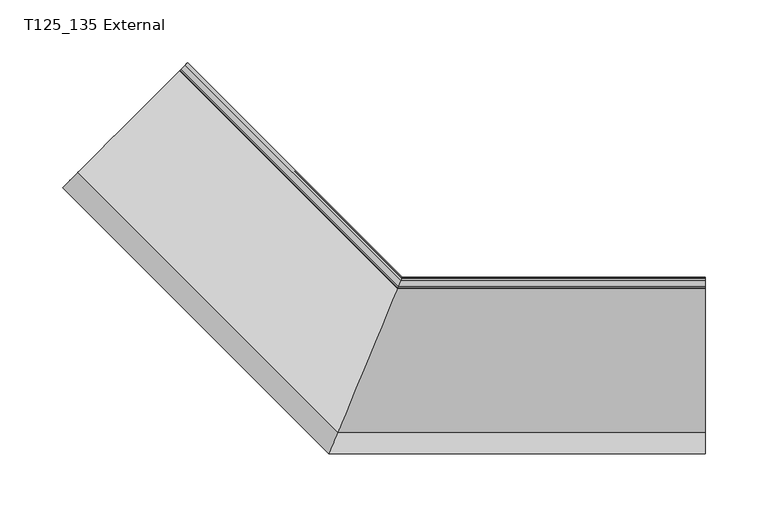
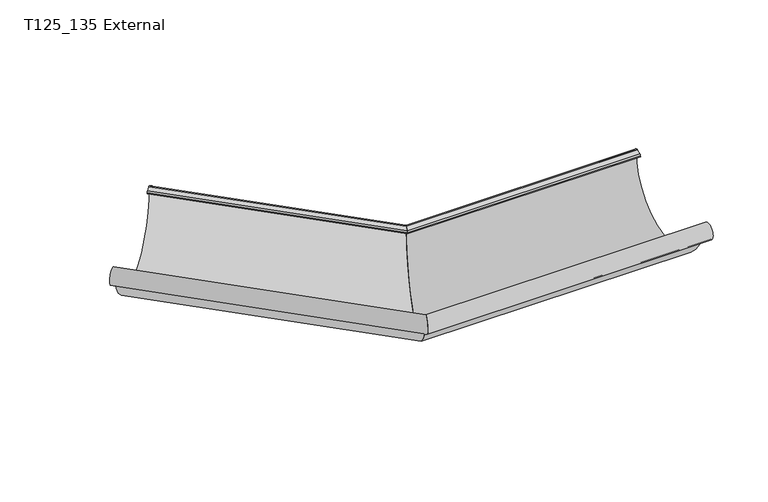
"""IFC4 building model written with IfcOpenShell, lengths in millimetres: proxy geometry, GROVIK_Gutter_Corner : T125_135 External."""

from ifc_helpers import new_model, si_unit, frame, origin, place, context, project, spatial, polyline, circle_curve, ellipse_curve, source, transform, mapped, element, save
from ifc_brep_helpers import plane_surface, cylinder_surface, revolved_surface, advanced_brep


def t125_135_external_83d908b1(model_context):
    return source(origin(), model_context, "Body", "AdvancedBrep", [
        advanced_brep(
        [(-3.4056223, -8.2218996, -4.3767466), (-3.2841745, -7.9286985, -3.417729), (-3.0297294, -7.3144139, -2.7704081), (-1.0835623, -2.6159508, -1.0603074), (-0.5277642, -1.2741356, -2.0202437), (-51.3486251, -123.9665472, -11.1898563), (-55.4328194, -133.8266643, -20.54941), (-54.47884, -131.5235543, -18.572593), (-54.47884, -131.5235543, -12.0487098), (-54.8930535, -132.5235543, -12.0487098), (-54.8930535, -132.5235543, -18.572593), (-55.3700267, -133.6750695, -19.5609673), (-51.760765, -124.9615409, -11.2897939), (-0.1134658, -0.2739306, -2.0), (-1.2252317, -2.9579709, -0.1206148), (-3.1713988, -7.656434, -1.8307155), (-3.6802889, -8.8850033, -3.1253573), (-3.8017367, -9.1782044, -4.0843749), (-177.2947717, 164.3148306, -4.0843749), (-177.0874472, 164.5221551, -3.1253573), (-176.2187176, 165.3908848, -1.8307155), (-172.8964025, 168.7131999, -0.1206148), (-170.9984994, 170.611103, -2.0), (-259.1659541, 82.4436482, -11.2897939), (-265.3273493, 76.2822531, -19.5609673), (-264.5131051, 77.0964973, -18.572593), (-264.5131051, 77.0964973, -12.0487098), (-263.8059983, 77.803604, -12.0487098), (-263.8059983, 77.803604, -18.572593), (-265.434543, 76.1750593, -20.54941), (-258.4623873, 83.147215, -11.1898563), (-171.7057511, 169.9038513, -2.0202437), (-172.6545577, 168.9550446, -1.0603074), (-175.9768728, 165.6327295, -2.7704081), (-176.4112377, 165.1983647, -3.417729), (-176.6185621, 164.9910402, -4.3767466)],
        [
            (0, 1),
            (1, 2, ellipse_curve(frame((-2.8880601, -6.9723938, -3.7101007), z_axis=(-0.9238795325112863, 0.38268343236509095, 0.0), x_axis=(-0.382683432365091, -0.9238795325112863, 0.0)), 1.0823922, 1.0)),
            (2, 3),
            (3, 4, ellipse_curve(frame((-0.9418929, -2.2739306, -2.0), z_axis=(-0.9238795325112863, 0.38268343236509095, 0.0), x_axis=(-0.382683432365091, -0.9238795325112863, 0.0)), 1.0823922, 1.0)),
            (4, 5, ellipse_curve(frame((-25.9866449, -62.7373106, -5.0399641), z_axis=(-0.9238795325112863, 0.38268343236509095, 0.0), x_axis=(-0.382683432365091, -0.9238795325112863, 0.0)), 66.607505, 61.5373106)),
            (5, 6, ellipse_curve(frame((-54.8928323, -132.5230203, -12.0492723), z_axis=(0.9238795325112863, -0.38268343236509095, 0.0), x_axis=(0.382683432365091, 0.9238795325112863, 0.0)), 9.3080586, 8.5995249)),
            (6, 7, ellipse_curve(frame((-55.3072384, -133.5234851, -18.572593), z_axis=(0.9238795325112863, -0.38268343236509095, 0.0), x_axis=(0.382683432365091, 0.9238795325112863, 0.0)), 2.1647095, 1.9999308)),
            (7, 8),
            (8, 9),
            (9, 10),
            (10, 11, ellipse_curve(frame((-55.3072384, -133.5234851, -18.572593), z_axis=(-0.9238795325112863, 0.38268343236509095, 0.0), x_axis=(-0.382683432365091, -0.9238795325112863, 0.0)), 1.0823173, 0.9999308)),
            (11, 12, ellipse_curve(frame((-54.8928323, -132.5230203, -12.0492723), z_axis=(-0.9238795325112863, 0.38268343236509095, 0.0), x_axis=(-0.382683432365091, -0.9238795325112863, 0.0)), 8.2256664, 7.5995249)),
            (12, 13, ellipse_curve(frame((-25.9866449, -62.7373106, -5.0399641), z_axis=(0.9238795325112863, -0.38268343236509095, 0.0), x_axis=(0.382683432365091, 0.9238795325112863, 0.0)), 67.6898972, 62.5373106)),
            (13, 14, ellipse_curve(frame((-0.9418929, -2.2739306, -2.0), z_axis=(0.9238795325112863, -0.38268343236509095, 0.0), x_axis=(0.382683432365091, 0.9238795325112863, 0.0)), 2.1647844, 2.0)),
            (14, 15),
            (15, 16, ellipse_curve(frame((-2.8880601, -6.9723938, -3.7101007), z_axis=(0.9238795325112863, -0.38268343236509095, 0.0), x_axis=(0.382683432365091, 0.9238795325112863, 0.0)), 2.1647844, 2.0)),
            (16, 17),
            (17, 0),
            (18, 19),
            (19, 20, circle_curve(frame((-175.7350281, 165.8745743, -3.7101007), z_axis=(-0.707106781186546, 0.7071067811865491, 0.0), x_axis=(-0.7071067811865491, -0.707106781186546, 0.0)), 2.0)),
            (20, 21),
            (21, 22, circle_curve(frame((-172.412713, 169.1968894, -2.0), z_axis=(-0.707106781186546, 0.7071067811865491, 0.0), x_axis=(-0.7071067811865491, -0.707106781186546, 0.0)), 2.0)),
            (22, 23, circle_curve(frame((-215.1667789, 126.4428234, -5.0399641), z_axis=(-0.707106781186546, 0.7071067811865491, 0.0), x_axis=(-0.7071067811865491, -0.707106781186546, 0.0)), 62.5373106)),
            (23, 24, circle_curve(frame((-264.5127275, 77.0968749, -12.0492723), z_axis=(0.707106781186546, -0.7071067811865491, 0.0), x_axis=(-0.7071067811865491, -0.707106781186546, 0.0)), 7.5995249)),
            (24, 25, circle_curve(frame((-265.2201629, 76.3894394, -18.572593), z_axis=(0.707106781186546, -0.7071067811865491, 0.0), x_axis=(-0.7071067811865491, -0.707106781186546, 0.0)), 0.9999308)),
            (25, 26),
            (26, 27),
            (27, 28),
            (28, 29, circle_curve(frame((-265.2201629, 76.3894394, -18.572593), z_axis=(-0.707106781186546, 0.7071067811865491, 0.0), x_axis=(-0.7071067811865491, -0.707106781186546, 0.0)), 1.9999308)),
            (29, 30, circle_curve(frame((-264.5127275, 77.0968749, -12.0492723), z_axis=(-0.707106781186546, 0.7071067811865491, 0.0), x_axis=(-0.7071067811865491, -0.707106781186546, 0.0)), 8.5995249)),
            (30, 31, circle_curve(frame((-215.1667789, 126.4428234, -5.0399641), z_axis=(0.707106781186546, -0.7071067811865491, 0.0), x_axis=(-0.7071067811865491, -0.707106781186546, 0.0)), 61.5373106)),
            (31, 32, circle_curve(frame((-172.412713, 169.1968894, -2.0), z_axis=(0.707106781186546, -0.7071067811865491, 0.0), x_axis=(-0.7071067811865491, -0.707106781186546, 0.0)), 1.0)),
            (32, 33),
            (33, 34, circle_curve(frame((-175.7350281, 165.8745743, -3.7101007), z_axis=(0.707106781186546, -0.7071067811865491, 0.0), x_axis=(-0.7071067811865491, -0.707106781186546, 0.0)), 1.0)),
            (34, 35),
            (35, 18),
            (35, 0),
            (17, 18),
            (34, 1),
            (33, 2),
            (32, 3),
            (31, 4),
            (30, 5),
            (29, 6),
            (28, 7),
            (27, 8),
            (26, 9),
            (25, 10),
            (24, 11),
            (23, 12),
            (22, 13),
            (21, 14),
            (20, 15),
            (19, 16),
        ],
        [
            plane_surface(frame((-82.8427125, -200.0, 250.0), z_axis=(0.9238795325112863, -0.38268343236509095, 0.0), x_axis=(0.0, 0.0, -1.0))),
            plane_surface(frame((-170.9462225, 170.6633798, 0.0), z_axis=(-0.707106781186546, 0.7071067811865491, 0.0), x_axis=(0.0, 0.0, 1.0))),
            plane_surface(frame((-177.2947717, 164.3148306, -4.0843749), z_axis=(-0.2067380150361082, -0.20673801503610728, -0.9563047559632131), x_axis=(0.707106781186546, -0.7071067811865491, 0.0))),
            plane_surface(frame((-176.6185621, 164.9910402, -4.3767466), z_axis=(0.6762095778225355, 0.6762095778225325, -0.29237170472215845), x_axis=(0.707106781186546, -0.7071067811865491, 0.0))),
            revolved_surface(polyline([(-3.3022736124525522, -7.972393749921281, -3.7101007), (-176.44213488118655, 165.16746751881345, -3.7101007)]), (-175.7350281, 165.8745743, -3.7101007), (0.707106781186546, -0.7071067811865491, 0.0)),
            plane_surface(frame((-175.9768728, 165.6327295, -2.7704081), z_axis=(0.24184476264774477, 0.24184476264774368, -0.9396926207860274), x_axis=(0.707106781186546, -0.7071067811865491, 0.0))),
            revolved_surface(polyline([(-1.356106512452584, -3.273930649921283, -2.0), (-173.11981978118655, 168.48978261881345, -2.0)]), (-172.412713, 169.1968894, -2.0), (0.707106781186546, -0.7071067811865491, 0.0)),
            revolved_surface(polyline([(-51.476233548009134, -124.27462119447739, -5.0399641), (-258.680228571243, 82.92937382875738, -5.0399641)]), (-215.1667789, 126.4428234, -5.0399641), (0.707106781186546, -0.7071067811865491, 0.0)),
            cylinder_surface(frame((-264.5127275, 77.0968749, -12.0492723), z_axis=(-0.707106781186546, 0.7071067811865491, 0.0), x_axis=(-0.7071067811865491, -0.707106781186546, 0.0)), 8.5995249),
            cylinder_surface(frame((-265.2201629, 76.3894394, -18.572593), z_axis=(-0.707106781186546, 0.7071067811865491, 0.0), x_axis=(-0.7071067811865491, -0.707106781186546, 0.0)), 1.9999308),
            plane_surface(frame((-263.8059983, 77.803604, -18.572593), z_axis=(0.7071067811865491, 0.707106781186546, 0.0), x_axis=(0.707106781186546, -0.7071067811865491, 0.0))),
            plane_surface(frame((-263.8059983, 77.803604, -12.0487098), z_axis=(0.0, 0.0, 1.0), x_axis=(0.707106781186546, -0.7071067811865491, 0.0))),
            plane_surface(frame((-264.5131051, 77.0964973, -12.0487098), z_axis=(-0.7071067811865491, -0.707106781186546, 0.0), x_axis=(0.707106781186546, -0.7071067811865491, 0.0))),
            revolved_surface(polyline([(-55.721423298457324, -134.52341590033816, -18.572593), (-265.92722079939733, 75.68238160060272, -18.572593)]), (-265.2201629, 76.3894394, -18.572593), (0.707106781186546, -0.7071067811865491, 0.0)),
            revolved_surface(polyline([(-58.04065860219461, -140.12254517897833, -12.0492723), (-269.886403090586, 71.723199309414, -12.0492723)]), (-264.5127275, 77.0968749, -12.0492723), (0.707106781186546, -0.7071067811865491, 0.0)),
            cylinder_surface(frame((-215.1667789, 126.4428234, -5.0399641), z_axis=(-0.707106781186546, 0.7071067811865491, 0.0), x_axis=(-0.7071067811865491, -0.707106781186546, 0.0)), 62.5373106),
            cylinder_surface(frame((-172.412713, 169.1968894, -2.0), z_axis=(-0.707106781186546, 0.7071067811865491, 0.0), x_axis=(-0.7071067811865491, -0.707106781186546, 0.0)), 2.0),
            plane_surface(frame((-172.8964025, 168.7131999, -0.1206148), z_axis=(-0.24184476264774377, -0.2418447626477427, 0.939692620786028), x_axis=(0.707106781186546, -0.7071067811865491, 0.0))),
            cylinder_surface(frame((-175.7350281, 165.8745743, -3.7101007), z_axis=(-0.707106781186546, 0.7071067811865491, 0.0), x_axis=(-0.7071067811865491, -0.707106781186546, 0.0)), 2.0),
            plane_surface(frame((-177.0874472, 164.5221551, -3.1253573), z_axis=(-0.6762095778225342, -0.6762095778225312, 0.2923717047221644), x_axis=(0.707106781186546, -0.7071067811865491, 0.0))),
        ],
        [
            (0, [[1, 2, 3, 4, 5, 6, 7, 8, 9, 10, 11, 12, 13, 14, 15, 16, 17, 18]]),
            (1, [[19, 20, 21, 22, 23, 24, 25, 26, 27, 28, 29, 30, 31, 32, 33, 34, 35, 36]]),
            (2, [[37, -18, 38, -36]]),
            (3, [[39, -1, -37, -35]]),
            (4, [[40, -2, -39, -34]]),
            (5, [[41, -3, -40, -33]]),
            (6, [[42, -4, -41, -32]]),
            (7, [[43, -5, -42, -31]]),
            (8, [[44, -6, -43, -30]]),
            (9, [[45, -7, -44, -29]]),
            (10, [[46, -8, -45, -28]]),
            (11, [[47, -9, -46, -27]]),
            (12, [[48, -10, -47, -26]]),
            (13, [[49, -11, -48, -25]]),
            (14, [[50, -12, -49, -24]]),
            (15, [[51, -13, -50, -23]]),
            (16, [[52, -14, -51, -22]]),
            (17, [[53, -15, -52, -21]]),
            (18, [[54, -16, -53, -20]]),
            (19, [[-38, -17, -54, -19]]),
        ],
    ),
        advanced_brep(
        [(241.5544663, -9.1782044, -4.0843749), (241.5544663, -8.2218996, -4.3767466), (241.5544663, -7.9286985, -3.417729), (241.5544663, -7.3144139, -2.7704081), (241.5544663, -2.6159508, -1.0603074), (241.5544663, -1.2741356, -2.0202437), (241.5544663, -123.9665472, -11.1898563), (241.5544663, -133.8266643, -20.54941), (241.5544663, -131.5235543, -18.572593), (241.5544663, -131.5235543, -12.0487098), (241.5544663, -132.5235543, -12.0487098), (241.5544663, -132.5235543, -18.572593), (241.5544663, -133.6750695, -19.5609673), (241.5544663, -124.9615409, -11.2897939), (241.5544663, -0.2739306, -2.0), (241.5544663, -2.9579709, -0.1206148), (241.5544663, -7.656434, -1.8307155), (241.5544663, -8.8850033, -3.1253573), (-3.8017367, -9.1782044, -4.0843749), (-3.4056223, -8.2218996, -4.3767466), (-3.2841745, -7.9286985, -3.417729), (-3.0297294, -7.3144139, -2.7704081), (-1.0835623, -2.6159508, -1.0603074), (-0.5277642, -1.2741356, -2.0202437), (-51.3486251, -123.9665472, -11.1898563), (-55.4328194, -133.8266643, -20.54941), (-54.47884, -131.5235543, -18.572593), (-54.47884, -131.5235543, -12.0487098), (-54.8930535, -132.5235543, -12.0487098), (-54.8930535, -132.5235543, -18.572593), (-55.3700267, -133.6750695, -19.5609673), (-51.760765, -124.9615409, -11.2897939), (-0.1134658, -0.2739306, -2.0), (-1.2252317, -2.9579709, -0.1206148), (-3.1713988, -7.656434, -1.8307155), (-3.6802889, -8.8850033, -3.1253573)],
        [
            (0, 1),
            (1, 2),
            (2, 3, circle_curve(frame((241.5544663, -6.9723938, -3.7101007), z_axis=(-1.0, 0.0, 0.0), x_axis=(0.0, -1.0, 0.0)), 1.0)),
            (3, 4),
            (4, 5, circle_curve(frame((241.5544663, -2.2739306, -2.0), z_axis=(-1.0, 0.0, 0.0), x_axis=(0.0, -1.0, 0.0)), 1.0)),
            (5, 6, circle_curve(frame((241.5544663, -62.7373106, -5.0399641), z_axis=(-1.0, 0.0, 0.0), x_axis=(0.0, -1.0, 0.0)), 61.5373106)),
            (6, 7, circle_curve(frame((241.5544663, -132.5230203, -12.0492723), z_axis=(1.0, 0.0, 0.0), x_axis=(0.0, -1.0, 0.0)), 8.5995249)),
            (7, 8, circle_curve(frame((241.5544663, -133.5234851, -18.572593), z_axis=(1.0, 0.0, 0.0), x_axis=(0.0, -1.0, 0.0)), 1.9999308)),
            (8, 9),
            (9, 10),
            (10, 11),
            (11, 12, circle_curve(frame((241.5544663, -133.5234851, -18.572593), z_axis=(-1.0, 0.0, 0.0), x_axis=(0.0, -1.0, 0.0)), 0.9999308)),
            (12, 13, circle_curve(frame((241.5544663, -132.5230203, -12.0492723), z_axis=(-1.0, 0.0, 0.0), x_axis=(0.0, -1.0, 0.0)), 7.5995249)),
            (13, 14, circle_curve(frame((241.5544663, -62.7373106, -5.0399641), z_axis=(1.0, 0.0, 0.0), x_axis=(0.0, -1.0, 0.0)), 62.5373106)),
            (14, 15, circle_curve(frame((241.5544663, -2.2739306, -2.0), z_axis=(1.0, 0.0, 0.0), x_axis=(0.0, -1.0, 0.0)), 2.0)),
            (15, 16),
            (16, 17, circle_curve(frame((241.5544663, -6.9723938, -3.7101007), z_axis=(1.0, 0.0, 0.0), x_axis=(0.0, -1.0, 0.0)), 2.0)),
            (17, 0),
            (0, 18),
            (18, 19),
            (19, 1),
            (19, 20),
            (20, 2),
            (20, 21, ellipse_curve(frame((-2.8880601, -6.9723938, -3.7101007), z_axis=(-0.9238795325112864, 0.38268343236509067, 0.0), x_axis=(-0.3826834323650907, -0.9238795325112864, 0.0)), 1.0823922, 1.0)),
            (21, 3),
            (21, 22),
            (22, 4),
            (22, 23, ellipse_curve(frame((-0.9418929, -2.2739306, -2.0), z_axis=(-0.9238795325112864, 0.38268343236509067, 0.0), x_axis=(-0.3826834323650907, -0.9238795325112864, 0.0)), 1.0823922, 1.0)),
            (23, 5),
            (23, 24, ellipse_curve(frame((-25.9866449, -62.7373106, -5.0399641), z_axis=(-0.9238795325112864, 0.38268343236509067, 0.0), x_axis=(-0.3826834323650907, -0.9238795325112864, 0.0)), 66.607505, 61.5373106)),
            (24, 6),
            (24, 25, ellipse_curve(frame((-54.8928323, -132.5230203, -12.0492723), z_axis=(0.9238795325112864, -0.38268343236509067, 0.0), x_axis=(0.3826834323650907, 0.9238795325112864, 0.0)), 9.3080586, 8.5995249)),
            (25, 7),
            (25, 26, ellipse_curve(frame((-55.3072384, -133.5234851, -18.572593), z_axis=(0.9238795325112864, -0.38268343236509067, 0.0), x_axis=(0.3826834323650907, 0.9238795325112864, 0.0)), 2.1647095, 1.9999308)),
            (26, 8),
            (26, 27),
            (27, 9),
            (27, 28),
            (28, 10),
            (28, 29),
            (29, 11),
            (29, 30, ellipse_curve(frame((-55.3072384, -133.5234851, -18.572593), z_axis=(-0.9238795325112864, 0.38268343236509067, 0.0), x_axis=(-0.3826834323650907, -0.9238795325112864, 0.0)), 1.0823173, 0.9999308)),
            (30, 12),
            (30, 31, ellipse_curve(frame((-54.8928323, -132.5230203, -12.0492723), z_axis=(-0.9238795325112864, 0.38268343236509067, 0.0), x_axis=(-0.3826834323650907, -0.9238795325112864, 0.0)), 8.2256664, 7.5995249)),
            (31, 13),
            (31, 32, ellipse_curve(frame((-25.9866449, -62.7373106, -5.0399641), z_axis=(0.9238795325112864, -0.38268343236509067, 0.0), x_axis=(0.3826834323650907, 0.9238795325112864, 0.0)), 67.6898972, 62.5373106)),
            (32, 14),
            (32, 33, ellipse_curve(frame((-0.9418929, -2.2739306, -2.0), z_axis=(0.9238795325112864, -0.38268343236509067, 0.0), x_axis=(0.3826834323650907, 0.9238795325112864, 0.0)), 2.1647844, 2.0)),
            (33, 15),
            (33, 34),
            (34, 16),
            (34, 35, ellipse_curve(frame((-2.8880601, -6.9723938, -3.7101007), z_axis=(0.9238795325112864, -0.38268343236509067, 0.0), x_axis=(0.3826834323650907, 0.9238795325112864, 0.0)), 2.1647844, 2.0)),
            (35, 17),
            (35, 18),
        ],
        [
            plane_surface(frame((241.5544663, -0.2, 0.0), z_axis=(1.0, 0.0, 0.0), x_axis=(0.0, 0.0, 1.0))),
            plane_surface(frame((241.5544663, -9.1782044, -4.0843749), z_axis=(0.0, -0.2923717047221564, -0.956304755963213), x_axis=(-1.0, 0.0, 0.0))),
            plane_surface(frame((241.5544663, -8.2218996, -4.3767466), z_axis=(0.0, 0.9563047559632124, -0.2923717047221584), x_axis=(-1.0, 0.0, 0.0))),
            revolved_surface(polyline([(-3.3022736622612, -7.9723938, -3.7101007), (241.5544663, -7.9723938, -3.7101007)]), (241.5544663, -6.9723938, -3.7101007), (-1.0, 0.0, 0.0)),
            plane_surface(frame((241.5544663, -7.3144139, -2.7704081), z_axis=(0.0, 0.342020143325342, -0.9396926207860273), x_axis=(-1.0, 0.0, 0.0))),
            revolved_surface(polyline([(-1.3561064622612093, -3.2739306, -2.0), (241.5544663, -3.2739306, -2.0)]), (241.5544663, -2.2739306, -2.0), (-1.0, 0.0, 0.0)),
            revolved_surface(polyline([(-51.47623353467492, -124.2746212, -5.0399641), (241.5544663, -124.2746212, -5.0399641)]), (241.5544663, -62.7373106, -5.0399641), (-1.0, 0.0, 0.0)),
            cylinder_surface(frame((241.5544663, -132.5230203, -12.0492723), z_axis=(1.0, 0.0, 0.0), x_axis=(0.0, -1.0, 0.0)), 8.5995249),
            cylinder_surface(frame((241.5544663, -133.5234851, -18.572593), z_axis=(1.0, 0.0, 0.0), x_axis=(0.0, -1.0, 0.0)), 1.9999308),
            plane_surface(frame((241.5544663, -131.5235543, -18.572593), z_axis=(0.0, 1.0, 0.0), x_axis=(-1.0, 0.0, 0.0))),
            plane_surface(frame((241.5544663, -131.5235543, -12.0487098), z_axis=(0.0, 0.0, 1.0), x_axis=(-1.0, 0.0, 0.0))),
            plane_surface(frame((241.5544663, -132.5235543, -12.0487098), z_axis=(0.0, -1.0, 0.0), x_axis=(-1.0, 0.0, 0.0))),
            revolved_surface(polyline([(-55.721423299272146, -134.52341589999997, -18.572593), (241.5544663, -134.52341589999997, -18.572593)]), (241.5544663, -133.5234851, -18.572593), (-1.0, 0.0, 0.0)),
            revolved_surface(polyline([(-58.04065855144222, -140.12254520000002, -12.0492723), (241.5544663, -140.12254520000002, -12.0492723)]), (241.5544663, -132.5230203, -12.0492723), (-1.0, 0.0, 0.0)),
            cylinder_surface(frame((241.5544663, -62.7373106, -5.0399641), z_axis=(1.0, 0.0, 0.0), x_axis=(0.0, -1.0, 0.0)), 62.5373106),
            cylinder_surface(frame((241.5544663, -2.2739306, -2.0), z_axis=(1.0, 0.0, 0.0), x_axis=(0.0, -1.0, 0.0)), 2.0),
            plane_surface(frame((241.5544663, -2.9579709, -0.1206148), z_axis=(0.0, -0.3420201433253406, 0.9396926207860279), x_axis=(-1.0, 0.0, 0.0))),
            cylinder_surface(frame((241.5544663, -6.9723938, -3.7101007), z_axis=(1.0, 0.0, 0.0), x_axis=(0.0, -1.0, 0.0)), 2.0),
            plane_surface(frame((241.5544663, -8.8850033, -3.1253573), z_axis=(0.0, -0.9563047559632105, 0.29237170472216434), x_axis=(-1.0, 0.0, 0.0))),
            plane_surface(frame((-82.8427125, -200.0, 250.0), z_axis=(-0.9238795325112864, 0.38268343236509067, 0.0), x_axis=(0.0, 0.0, -1.0))),
        ],
        [
            (0, [[1, 2, 3, 4, 5, 6, 7, 8, 9, 10, 11, 12, 13, 14, 15, 16, 17, 18]]),
            (1, [[-1, 19, 20, 21]]),
            (2, [[-2, -21, 22, 23]]),
            (3, [[-3, -23, 24, 25]]),
            (4, [[-4, -25, 26, 27]]),
            (5, [[-5, -27, 28, 29]]),
            (6, [[-6, -29, 30, 31]]),
            (7, [[-7, -31, 32, 33]]),
            (8, [[-8, -33, 34, 35]]),
            (9, [[-9, -35, 36, 37]]),
            (10, [[-10, -37, 38, 39]]),
            (11, [[-11, -39, 40, 41]]),
            (12, [[-12, -41, 42, 43]]),
            (13, [[-13, -43, 44, 45]]),
            (14, [[-14, -45, 46, 47]]),
            (15, [[-15, -47, 48, 49]]),
            (16, [[-16, -49, 50, 51]]),
            (17, [[-17, -51, 52, 53]]),
            (18, [[-18, -53, 54, -19]]),
            (19, [[-20, -54, -52, -50, -48, -46, -44, -42, -40, -38, -36, -34, -32, -30, -28, -26, -24, -22]]),
        ],
    ),
    ])


if __name__ == "__main__":
    model = new_model("IFC4")
    model_context = context("Model", 3, world=origin())
    ifc_project = project(units=[si_unit("LENGTHUNIT", "METRE", prefix="MILLI")], contexts=[model_context])
    site = spatial("IfcSite", under=ifc_project)
    building = spatial("IfcBuilding", under=site)
    placement = place(None, origin())
    t125_135_external_shape = t125_135_external_83d908b1(model_context)
    element("IfcBuildingElementProxy", 1, Name="GROVIK_Gutter_Corner : T125_135 External", ObjectType="GROVIK_Gutter_Corner : T125_135 External", at=placement, inside=building, context=model_context, shape_type="MappedRepresentation", body=[
        mapped(t125_135_external_shape, transform((0.0, 0.0, 0.0), x_axis=(1.0, 0.0, 0.0), y_axis=(0.0, 1.0, 0.0), z_axis=(0.0, 0.0, 1.0))),
    ])
    save(model, "model.ifc")
